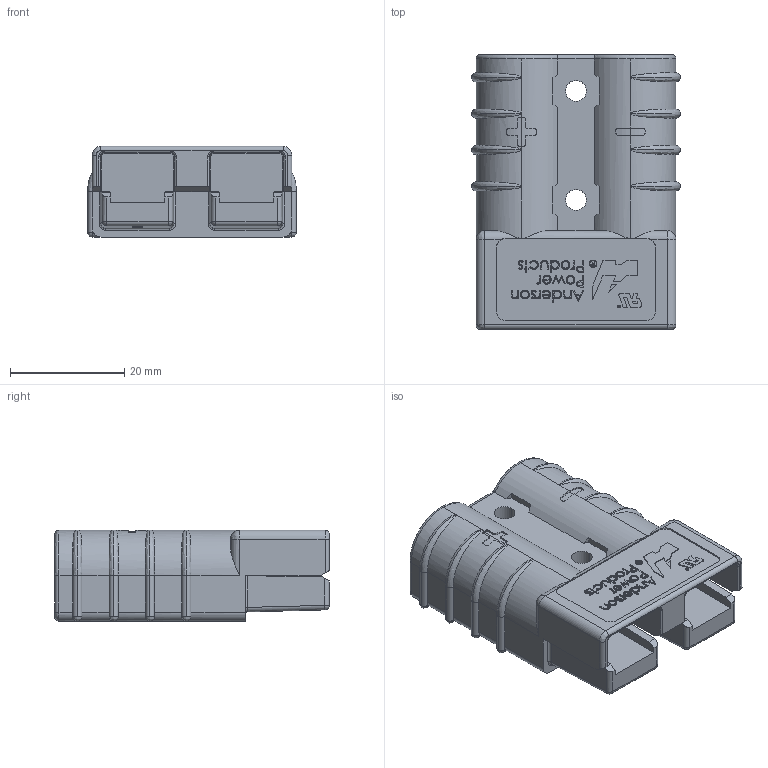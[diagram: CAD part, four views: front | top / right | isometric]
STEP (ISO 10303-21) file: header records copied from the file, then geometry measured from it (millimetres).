
FILE_DESCRIPTION (( 'STEP AP203' ), '1' );
FILE_NAME ('BatteryConnector.step', '2017-12-27T12:17:43', ( '' ), ( '' ), 'SwSTEP 2.0', 'SolidWorks 2017', '' );
FILE_SCHEMA (( 'CONFIG_CONTROL_DESIGN' ));
Length unit declared in the file: inch
Products named in the file (1): BatteryConnector
Bounding box: 36.51 x 48.02 x 16.03 mm (x, y, z)
Volume: 19135 mm3; surface area: 7780.4 mm2
Topology: 1 solids, 1 shells, 1699 faces, 4529 edges, 2966 vertices
Faces by surface type: plane 977, bspline 547, cylinder 175
Entity records: 81256 total; most frequent: CARTESIAN_POINT 42628, ORIENTED_EDGE 9014, DIRECTION 6007, EDGE_CURVE 4507, VECTOR 3041, LINE 3041, VERTEX_POINT 2966, EDGE_LOOP 1859
